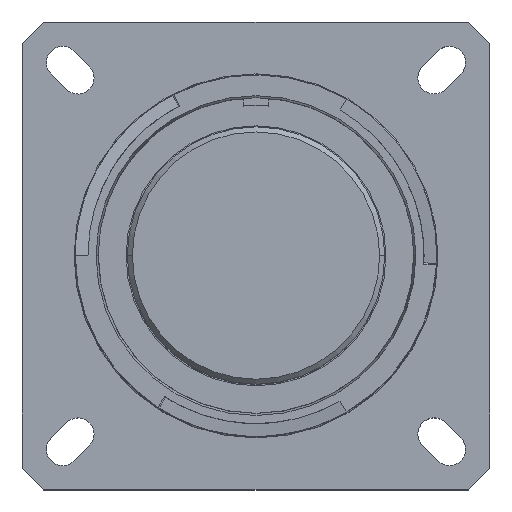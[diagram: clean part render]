
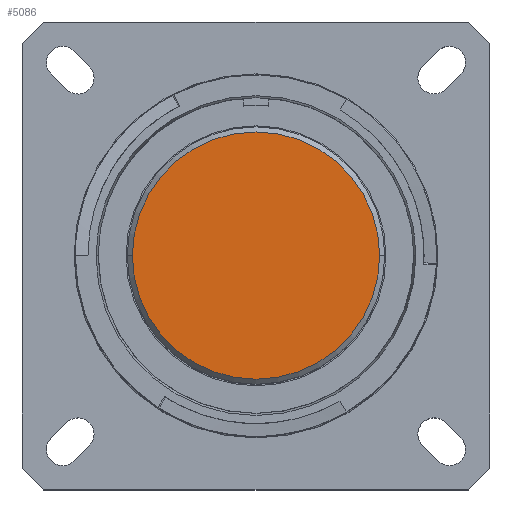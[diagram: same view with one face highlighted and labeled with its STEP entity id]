
A CAD part, top view. The second image highlights one B-rep face of the part: STEP entity #5086.
In plain terms, the highlighted planar face has unit normal (0, 0, 1).
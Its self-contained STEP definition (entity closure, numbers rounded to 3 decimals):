
#86 = VERTEX_POINT ( 'NONE', #4231 ) ;
#170 = PLANE ( 'NONE',  #5284 ) ;
#231 = FACE_OUTER_BOUND ( 'NONE', #2781, .T. ) ;
#300 = DIRECTION ( 'NONE',  ( 0., 0., 1. ) ) ;
#391 = CARTESIAN_POINT ( 'NONE',  ( 0., 0., -0.457 ) ) ;
#1443 = EDGE_CURVE ( 'NONE', #86, #1532, #2827, .T. ) ;
#1532 = VERTEX_POINT ( 'NONE', #2180 ) ;
#2053 = DIRECTION ( 'NONE',  ( 1., 0., 0. ) ) ;
#2180 = CARTESIAN_POINT ( 'NONE',  ( 12.383, 0., -0.457 ) ) ;
#2343 = AXIS2_PLACEMENT_3D ( 'NONE', #4018, #300, #4498 ) ;
#2569 = DIRECTION ( 'NONE',  ( 0., 0., 1. ) ) ;
#2654 = DIRECTION ( 'NONE',  ( 0., 0., 1. ) ) ;
#2781 = EDGE_LOOP ( 'NONE', ( #4421, #3141 ) ) ;
#2827 = CIRCLE ( 'NONE', #2343, 12.383 ) ;
#2912 = AXIS2_PLACEMENT_3D ( 'NONE', #391, #2654, #4484 ) ;
#3141 = ORIENTED_EDGE ( 'NONE', *, *, #3948, .T. ) ;
#3948 = EDGE_CURVE ( 'NONE', #1532, #86, #5206, .T. ) ;
#4018 = CARTESIAN_POINT ( 'NONE',  ( 0., 0., -0.457 ) ) ;
#4231 = CARTESIAN_POINT ( 'NONE',  ( -12.383, 0., -0.457 ) ) ;
#4421 = ORIENTED_EDGE ( 'NONE', *, *, #1443, .T. ) ;
#4484 = DIRECTION ( 'NONE',  ( 1., 0., 0. ) ) ;
#4498 = DIRECTION ( 'NONE',  ( 1., 0., 0. ) ) ;
#5086 = ADVANCED_FACE ( 'NONE', ( #231 ), #170, .T. ) ;
#5206 = CIRCLE ( 'NONE', #2912, 12.383 ) ;
#5284 = AXIS2_PLACEMENT_3D ( 'NONE', #5295, #2569, #2053 ) ;
#5295 = CARTESIAN_POINT ( 'NONE',  ( 0., 0., -0.457 ) ) ;
